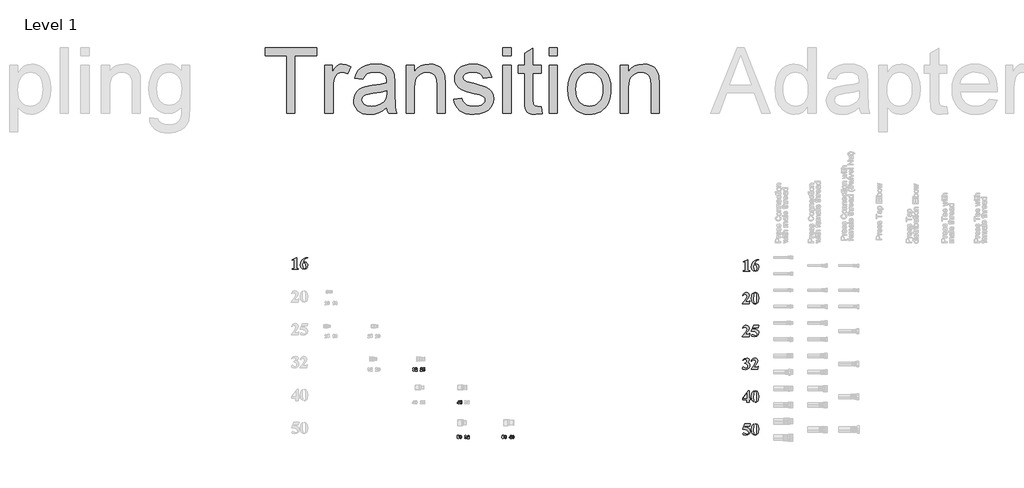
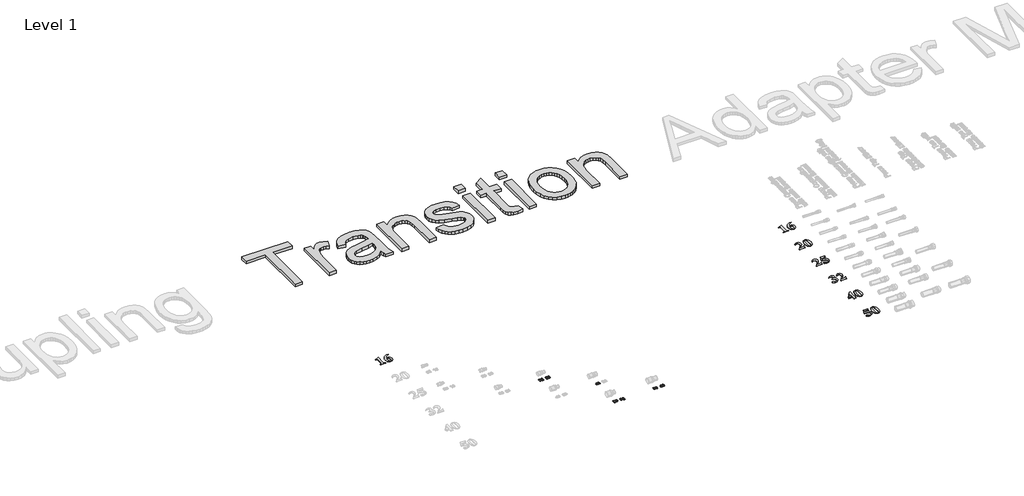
# One storey, part 39 of 57: 15 proxies.
"""IFC4 building model written with IfcOpenShell, lengths in millimetres."""

from ifc_helpers import new_model, si_unit, frame, origin, place, context, project, spatial, polyline, outline, extrude, element, save

model = new_model("IFC4")

# Units and contexts
model_context = context("Model", 3, world=origin())
ifc_project = project(units=[si_unit("LENGTHUNIT", "METRE", prefix="MILLI")], contexts=[model_context])

# Site, building, storey
site = spatial("IfcSite", under=ifc_project)
building = spatial("IfcBuilding", under=site)
storey = spatial("IfcBuildingStorey", under=building, Name="Level 1", Elevation=27.3876384)

# Proxies
placement = place(None, origin())
element("IfcBuildingElementProxy", 1, Name="100mm Arial", ObjectType="100mm Arial", at=placement, inside=storey, context=model_context, shape_type="SweptSolid", body=[
    extrude(outline(polyline([(29128.6894168, 29845.7051784), (29066.8263268, 29845.7051784), (29066.8263268, 29847.4501047), (29102.5973158, 29892.054783), (29108.7045578, 29914.4389156), (29103.4834112, 29927.6758174), (29090.7372699, 29932.951493), (29079.7496872, 29930.0205621), (29071.5430807, 29921.2277695), (29068.73484, 29922.236555), (29073.9934752, 29934.737316), (29081.4264523, 29943.5028442), (29090.6043556, 29948.676278), (29101.0977698, 29950.4007559), (29115.6297341, 29946.8154777), (29125.9220727, 29937.0002673), (29129.6436733, 29925.3174405), (29124.1362497, 29905.1689947), (29112.1330653, 29888.6262755), (29091.2280304, 29866.6442939), (29113.2031959, 29866.6442939), (29123.7409149, 29867.2441123), (29127.7487924, 29869.2889478), (29131.8793601, 29875.3689254), (29134.8784522, 29875.3689254), (29128.6894168, 29845.7051784)])), frame((0.0, 0.0, 27.3876384), z_axis=(0.0, 0.0, 1.0), x_axis=(1.0, 0.0, 0.0)), (0.0, 0.0, 1.0), 2.0),
    extrude(outline(polyline([(29216.8899879, 29897.180504), (29212.4458788, 29868.607336), (29205.3298512, 29855.2750085), (29195.1874672, 29847.0138731), (29182.8366608, 29843.9602521), (29169.0544695, 29847.7227494), (29158.1623124, 29858.5194809), (29152.1913928, 29872.1517175), (29148.8378625, 29895.9808672), (29153.6636743, 29926.5716062), (29158.6530729, 29936.7582951), (29165.7145715, 29944.2526172), (29182.8366608, 29950.4007559), (29199.9723822, 29944.3344106), (29211.6824735, 29928.0166233), (29216.8899879, 29897.180504)]), holes=[polyline([(29194.2059461, 29897.180504), (29193.851508, 29928.5346483), (29189.7345725, 29942.7394389), (29182.7821318, 29945.165977), (29176.9475345, 29943.3392573), (29172.6397477, 29934.0148075), (29171.5219043, 29887.3652936), (29173.2395662, 29858.1923072), (29176.9339023, 29851.0081185), (29183.3001568, 29849.195031), (29189.7345725, 29851.6215691), (29193.851508, 29864.6812518), (29194.2059461, 29897.180504)])]), frame((0.0, 0.0, 27.3876384), z_axis=(0.0, 0.0, 1.0), x_axis=(1.0, 0.0, 0.0)), (0.0, 0.0, 1.0), 2.0),
])
element("IfcBuildingElementProxy", 2, Name="100mm Arial", ObjectType="100mm Arial", at=placement, inside=storey, context=model_context, shape_type="SweptSolid", body=[
    extrude(outline(polyline([(29128.6894168, 29545.7051784), (29066.8263268, 29545.7051784), (29066.8263268, 29547.4501047), (29102.5973158, 29592.054783), (29108.7045578, 29614.4389156), (29103.4834112, 29627.6758174), (29090.7372699, 29632.951493), (29079.7496872, 29630.0205621), (29071.5430807, 29621.2277695), (29068.73484, 29622.236555), (29073.9934752, 29634.737316), (29081.4264523, 29643.5028442), (29090.6043556, 29648.676278), (29101.0977698, 29650.4007559), (29115.6297341, 29646.8154777), (29125.9220727, 29637.0002673), (29129.6436733, 29625.3174405), (29124.1362497, 29605.1689947), (29112.1330653, 29588.6262755), (29091.2280304, 29566.6442939), (29113.2031959, 29566.6442939), (29123.7409149, 29567.2441123), (29127.7487924, 29569.2889478), (29131.8793601, 29575.3689254), (29134.8784522, 29575.3689254), (29128.6894168, 29545.7051784)])), frame((0.0, 0.0, 27.3876384), z_axis=(0.0, 0.0, 1.0), x_axis=(1.0, 0.0, 0.0)), (0.0, 0.0, 1.0), 2.0),
    extrude(outline(polyline([(29168.0320518, 29648.6558296), (29216.8899879, 29648.6558296), (29209.9102828, 29627.7167141), (29165.6327781, 29627.7167141), (29162.4428347, 29618.9920827), (29186.7354805, 29615.2159531), (29204.7027684, 29605.8506065), (29213.843183, 29594.5971952), (29216.8899879, 29580.9036134), (29211.191713, 29562.2001848), (29195.4737441, 29548.5134191), (29173.4849464, 29543.9602521), (29153.6636743, 29548.7587994), (29148.8378625, 29556.4746454), (29151.3598263, 29562.3501394), (29157.2353203, 29564.8993676), (29163.3698268, 29563.5906729), (29174.0029714, 29556.6927611), (29182.1823134, 29551.9214783), (29187.6079436, 29550.9399573), (29198.459204, 29555.5067566), (29202.9305776, 29566.4807071), (29199.5361507, 29578.517972), (29189.3528699, 29588.0741699), (29173.9961553, 29594.3109182), (29155.0814269, 29596.3898343), (29148.8378625, 29596.3080409), (29168.0320518, 29648.6558296)])), frame((0.0, 0.0, 27.3876384), z_axis=(0.0, 0.0, 1.0), x_axis=(1.0, 0.0, 0.0)), (0.0, 0.0, 1.0), 2.0),
])
element("IfcBuildingElementProxy", 3, Name="100mm Arial", ObjectType="100mm Arial", at=placement, inside=storey, context=model_context, shape_type="SweptSolid", body=[
    extrude(outline(polyline([(29086.020516, 29301.5428197), (29086.020516, 29303.287746), (29098.4531159, 29308.0999256), (29104.4376678, 29314.8887794), (29106.9596315, 29324.1450681), (29102.2565099, 29335.2826055), (29090.5464186, 29339.9311982), (29080.485828, 29337.4978439), (29072.0611057, 29330.1977812), (29070.3161794, 29331.2065667), (29084.7254536, 29345.5885764), (29104.3149776, 29350.4007559), (29114.3653441, 29348.9489227), (29122.4867491, 29344.5934231), (29127.8544423, 29338.2953298), (29129.6436733, 29331.0157154), (29125.6357958, 29321.2414017), (29113.0668736, 29312.9666341), (29129.2892352, 29301.6791421), (29133.481148, 29294.1200669), (29134.8784522, 29284.8569621), (29131.8861763, 29269.0946884), (29122.9093484, 29255.8884592), (29108.9090414, 29246.9423039), (29090.8463278, 29243.9602521), (29079.2452944, 29245.2416824), (29071.270436, 29249.0859731), (29066.8263268, 29258.3831585), (29069.4028195, 29265.4582893), (29075.360107, 29268.3892202), (29080.2131832, 29267.2986413), (29089.074137, 29260.5643164), (29103.3607211, 29254.4298099), (29113.2849893, 29258.8875512), (29117.4291893, 29270.1886754), (29115.4286586, 29280.1981452), (29109.4270664, 29289.3964969), (29099.5743673, 29296.8294739), (29086.020516, 29301.5428197)])), frame((0.0, 0.0, 27.3876384), z_axis=(0.0, 0.0, 1.0), x_axis=(1.0, 0.0, 0.0)), (0.0, 0.0, 1.0), 2.0),
    extrude(outline(polyline([(29207.2110999, 29245.7051784), (29145.34801, 29245.7051784), (29145.34801, 29247.4501047), (29181.1189989, 29292.054783), (29187.226241, 29314.4389156), (29182.0050943, 29327.6758174), (29169.2589531, 29332.951493), (29158.2713703, 29330.0205621), (29150.0647638, 29321.2277695), (29147.2565231, 29322.236555), (29152.5151584, 29334.737316), (29159.9481354, 29343.5028442), (29169.1260387, 29348.676278), (29179.6194529, 29350.4007559), (29194.1514172, 29346.8154777), (29204.4437559, 29337.0002673), (29208.1653565, 29325.3174405), (29202.6579329, 29305.1689947), (29190.6547485, 29288.6262755), (29169.7497136, 29266.6442939), (29191.7248791, 29266.6442939), (29202.262598, 29267.2441123), (29206.2704756, 29269.2889478), (29210.4010433, 29275.3689254), (29213.4001354, 29275.3689254), (29207.2110999, 29245.7051784)])), frame((0.0, 0.0, 27.3876384), z_axis=(0.0, 0.0, 1.0), x_axis=(1.0, 0.0, 0.0)), (0.0, 0.0, 1.0), 2.0),
])
element("IfcBuildingElementProxy", 4, Name="100mm Arial", ObjectType="100mm Arial", at=placement, inside=storey, context=model_context, shape_type="SweptSolid", body=[
    extrude(outline(polyline([(29070.3161794, 28984.3649062), (29119.5830827, 29050.6721053), (29129.6436733, 29050.6721053), (29129.6436733, 28984.3649062), (29138.3683048, 28984.3649062), (29138.3683048, 28968.6605696), (29129.6436733, 28968.6605696), (29129.6436733, 28945.9765278), (29106.9596315, 28945.9765278), (29106.9596315, 28968.6605696), (29070.3161794, 28968.6605696), (29070.3161794, 28984.3649062)]), holes=[polyline([(29075.6054872, 28984.3649062), (29106.9596315, 28984.3649062), (29106.9596315, 29026.5430464), (29075.6054872, 28984.3649062)])]), frame((0.0, 0.0, 27.3876384), z_axis=(0.0, 0.0, 1.0), x_axis=(1.0, 0.0, 0.0)), (0.0, 0.0, 1.0), 2.0),
    extrude(outline(polyline([(29216.8899879, 28997.4518534), (29212.4458788, 28968.8786854), (29205.3298512, 28955.5463579), (29195.1874672, 28947.2852225), (29182.8366608, 28944.2316015), (29169.0544695, 28947.9940988), (29158.1623124, 28958.7908303), (29152.1913928, 28972.4230669), (29148.8378625, 28996.2522166), (29153.6636743, 29026.8429556), (29158.6530729, 29037.0296445), (29165.7145715, 29044.5239666), (29182.8366608, 29050.6721053), (29199.9723822, 29044.60576), (29211.6824735, 29028.2879727), (29216.8899879, 28997.4518534)]), holes=[polyline([(29194.2059461, 28997.4518534), (29193.851508, 29028.8059977), (29189.7345725, 29043.0107883), (29182.7821318, 29045.4373264), (29176.9475345, 29043.6106067), (29172.6397477, 29034.2861569), (29171.5219043, 28987.636643), (29173.2395662, 28958.4636566), (29176.9339023, 28951.2794679), (29183.3001568, 28949.4663804), (29189.7345725, 28951.8929185), (29193.851508, 28964.9526012), (29194.2059461, 28997.4518534)])]), frame((0.0, 0.0, 27.3876384), z_axis=(0.0, 0.0, 1.0), x_axis=(1.0, 0.0, 0.0)), (0.0, 0.0, 1.0), 2.0),
])
element("IfcBuildingElementProxy", 5, Name="100mm Arial", ObjectType="100mm Arial", at=placement, inside=storey, context=model_context, shape_type="SweptSolid", body=[
    extrude(outline(polyline([(29115.6862031, 30250.6707559), (29115.6862031, 30166.9142939), (29116.545034, 30155.2178349), (29120.1575767, 30151.0736349), (29128.9640016, 30149.465031), (29131.3905397, 30149.465031), (29131.3905397, 30145.9751784), (29075.5528984, 30145.9751784), (29075.5528984, 30149.465031), (29078.3611391, 30149.465031), (29088.0672916, 30150.9373125), (29091.9797435, 30154.9724546), (29093.0021613, 30166.9142939), (29093.0021613, 30219.2620827), (29092.3478139, 30227.9185529), (29089.9212758, 30230.9040128), (29085.8316048, 30232.1581785), (29076.8615931, 30229.7316404), (29075.5528984, 30233.221493), (29113.205136, 30250.6707559), (29115.6862031, 30250.6707559)])), frame((0.0, 0.0, 27.3876384), z_axis=(0.0, 0.0, 1.0), x_axis=(1.0, 0.0, 0.0)), (0.0, 0.0, 1.0), 2.0),
    extrude(outline(polyline([(29216.891928, 30250.6707559), (29216.891928, 30248.9258296), (29194.8758658, 30239.84676), (29181.7616542, 30226.3508457), (29174.3048207, 30206.6931605), (29179.8667733, 30209.2287565), (29189.8455705, 30210.5374512), (29200.4684909, 30208.4823915), (29209.1624498, 30202.3172125), (29214.9595585, 30192.6076519), (29216.891928, 30179.9194477), (29212.6523024, 30161.6249861), (29200.6286697, 30148.7697869), (29183.9837087, 30144.2302521), (29166.1800077, 30149.410502), (29153.4202341, 30164.5831814), (29148.8398026, 30186.2993344), (29150.9425751, 30202.9272551), (29157.2508926, 30218.2941939), (29167.4273573, 30231.5310957), (29181.1345713, 30241.7689054), (29197.8102048, 30248.3634999), (29216.891928, 30250.6707559)]), holes=[polyline([(29173.2687707, 30201.076679), (29171.5238444, 30185.8903673), (29173.7186345, 30165.8373472), (29179.7304509, 30152.2460073), (29186.1921311, 30149.465031), (29192.9673527, 30153.4865408), (29195.9528125, 30169.8315925), (29194.6304856, 30187.3490167), (29190.6635047, 30198.4592895), (29181.4753772, 30203.557746), (29173.2687707, 30201.076679)])]), frame((0.0, 0.0, 27.3876384), z_axis=(0.0, 0.0, 1.0), x_axis=(1.0, 0.0, 0.0)), (0.0, 0.0, 1.0), 2.0),
])
element("IfcBuildingElementProxy", 6, Name="100mm Arial", ObjectType="100mm Arial", at=placement, inside=storey, context=model_context, shape_type="SweptSolid", body=[
    extrude(outline(polyline([(29089.5103686, 28748.9258296), (29138.3683048, 28748.9258296), (29131.3885996, 28727.9867141), (29087.111095, 28727.9867141), (29083.9211516, 28719.2620827), (29108.2137973, 28715.4859531), (29126.1810852, 28706.1206065), (29135.3214999, 28694.8671952), (29138.3683048, 28681.1736134), (29132.6700299, 28662.4701848), (29116.952061, 28648.7834191), (29094.9632633, 28644.2302521), (29075.1419912, 28649.0287994), (29070.3161794, 28656.7446454), (29072.8381432, 28662.6201394), (29078.7136372, 28665.1693676), (29084.8481437, 28663.8606729), (29095.4812883, 28656.9627611), (29103.6606303, 28652.1914783), (29109.0862605, 28651.2099573), (29119.9375208, 28655.7767566), (29124.4088945, 28666.7507071), (29121.0144675, 28678.787972), (29110.8311867, 28688.3441699), (29095.4744722, 28694.5809182), (29076.5597438, 28696.6598343), (29070.3161794, 28696.5780409), (29089.5103686, 28748.9258296)])), frame((0.0, 0.0, 27.3876384), z_axis=(0.0, 0.0, 1.0), x_axis=(1.0, 0.0, 0.0)), (0.0, 0.0, 1.0), 2.0),
    extrude(outline(polyline([(29216.8899879, 28697.450504), (29212.4458788, 28668.877336), (29205.3298512, 28655.5450085), (29195.1874672, 28647.2838731), (29182.8366608, 28644.2302521), (29169.0544695, 28647.9927494), (29158.1623124, 28658.7894809), (29152.1913928, 28672.4217175), (29148.8378625, 28696.2508672), (29153.6636743, 28726.8416062), (29158.6530729, 28737.0282951), (29165.7145715, 28744.5226172), (29182.8366608, 28750.6707559), (29199.9723822, 28744.6044106), (29211.6824735, 28728.2866233), (29216.8899879, 28697.450504)]), holes=[polyline([(29194.2059461, 28697.450504), (29193.851508, 28728.8046483), (29189.7345725, 28743.0094389), (29182.7821318, 28745.435977), (29176.9475345, 28743.6092573), (29172.6397477, 28734.2848075), (29171.5219043, 28687.6352936), (29173.2395662, 28658.4623072), (29176.9339023, 28651.2781185), (29183.3001568, 28649.465031), (29189.7345725, 28651.8915691), (29193.851508, 28664.9512518), (29194.2059461, 28697.450504)])]), frame((0.0, 0.0, 27.3876384), z_axis=(0.0, 0.0, 1.0), x_axis=(1.0, 0.0, 0.0)), (0.0, 0.0, 1.0), 2.0),
])
element("IfcBuildingElementProxy", 7, Name="100mm Arial", ObjectType="100mm Arial", at=placement, inside=storey, context=model_context, shape_type="SweptSolid", body=[
    extrude(outline(polyline([(24988.8058204, 30267.9322839), (24988.8058204, 30184.1758219), (24989.6646513, 30172.4793628), (24993.277194, 30168.3351629), (25002.0836189, 30166.7265589), (25004.510157, 30166.7265589), (25004.510157, 30163.2367064), (24948.6725157, 30163.2367064), (24948.6725157, 30166.7265589), (24951.4807564, 30166.7265589), (24961.1869089, 30168.1988405), (24965.0993608, 30172.2339825), (24966.1217786, 30184.1758219), (24966.1217786, 30236.5236106), (24965.4674312, 30245.1800809), (24963.0408931, 30248.1655407), (24958.9512221, 30249.4197065), (24949.9812104, 30246.9931684), (24948.6725157, 30250.483021), (24986.3247533, 30267.9322839), (24988.8058204, 30267.9322839)])), frame((0.0, 0.0, 27.3876384), z_axis=(0.0, 0.0, 1.0), x_axis=(1.0, 0.0, 0.0)), (0.0, 0.0, 1.0), 2.0),
    extrude(outline(polyline([(25090.0115453, 30267.9322839), (25090.0115453, 30266.1873576), (25067.9954831, 30257.108288), (25054.8812715, 30243.6123737), (25047.424438, 30223.9546884), (25052.9863906, 30226.4902844), (25062.9651878, 30227.7989792), (25073.5881082, 30225.7439195), (25082.2820671, 30219.5787405), (25088.0791758, 30209.8691799), (25090.0115453, 30197.1809756), (25085.7719197, 30178.886514), (25073.748287, 30166.0313149), (25057.103326, 30161.4917801), (25039.299625, 30166.67203), (25026.5398515, 30181.8447094), (25021.9594199, 30203.5608624), (25024.0621924, 30220.188783), (25030.37051, 30235.5557218), (25040.5469746, 30248.7926236), (25054.2541886, 30259.0304333), (25070.9298221, 30265.6250278), (25090.0115453, 30267.9322839)]), holes=[polyline([(25046.388388, 30218.3382069), (25044.6434617, 30203.1518953), (25046.8382518, 30183.0988752), (25052.8500682, 30169.5075352), (25059.3117484, 30166.7265589), (25066.08697, 30170.7480688), (25069.0724298, 30187.0931205), (25067.7501029, 30204.6105446), (25063.783122, 30215.7208175), (25054.5949945, 30220.819274), (25046.388388, 30218.3382069)])]), frame((0.0, 0.0, 27.3876384), z_axis=(0.0, 0.0, 1.0), x_axis=(1.0, 0.0, 0.0)), (0.0, 0.0, 1.0), 2.0),
])
element("IfcBuildingElementProxy", 8, Name="30mm Arial", ObjectType="30mm Arial", at=placement, inside=storey, context=model_context, shape_type="SweptSolid", body=[
    extrude(outline(polyline([(26137.3037173, 29236.8883595), (26137.3037173, 29231.0583057), (26117.8702049, 29231.0583057), (26119.7300528, 29236.7782868), (26125.8409815, 29243.9481901), (26130.3501637, 29248.8369331), (26131.4736636, 29252.3440748), (26130.5285572, 29255.2932621), (26127.9209746, 29256.3218718), (26125.3095964, 29255.3084445), (26124.1860965, 29251.9493316), (26118.3560427, 29252.4807167), (26121.4836236, 29259.5291605), (26128.0500253, 29261.6660877), (26134.8365722, 29259.2710592), (26137.3037173, 29253.3157504), (26136.6280991, 29249.4594128), (26134.4873763, 29245.6258488), (26130.8625707, 29241.7998761), (26127.5338226, 29238.4825148), (26126.4406875, 29236.8883595), (26137.3037173, 29236.8883595)])), frame((0.0, 0.0, 27.3876384), z_axis=(0.0, 0.0, 1.0), x_axis=(1.0, 0.0, 0.0)), (0.0, 0.0, 1.0), 2.0),
    extrude(outline(polyline([(26141.1904198, 29239.6743357), (26146.5346357, 29240.2892241), (26148.022514, 29237.0933223), (26150.8768111, 29235.9166838), (26154.0005964, 29237.1654388), (26155.2797163, 29240.9268863), (26154.091691, 29244.4568016), (26150.9982706, 29245.63344), (26146.7320073, 29243.204251), (26141.6762576, 29243.9557813), (26145.0771223, 29261.1802499), (26159.6522566, 29261.1802499), (26159.6522566, 29255.3501962), (26149.7912673, 29255.3501962), (26148.6146288, 29249.7858351), (26152.3722806, 29250.9776559), (26158.5667127, 29248.218249), (26161.10977, 29241.0559369), (26158.9918208, 29234.5047177), (26150.9679057, 29230.5724679), (26144.2838402, 29233.0396131), (26141.1904198, 29239.6743357)])), frame((0.0, 0.0, 27.3876384), z_axis=(0.0, 0.0, 1.0), x_axis=(1.0, 0.0, 0.0)), (0.0, 0.0, 1.0), 2.0),
])
element("IfcBuildingElementProxy", 9, Name="30mm Arial", ObjectType="30mm Arial", at=placement, inside=storey, context=model_context, shape_type="SweptSolid", body=[
    extrude(outline(polyline([(26048.104811, 29239.6136059), (26053.9348648, 29240.2892241), (26055.2481451, 29237.0401838), (26057.8367497, 29235.9166838), (26060.592361, 29237.2033949), (26061.7082697, 29240.6687849), (26060.6872512, 29243.9405989), (26058.1935368, 29245.1476022), (26055.878216, 29244.7149029), (26056.3868275, 29249.5201425), (26059.2601026, 29250.4766357), (26060.2507563, 29253.1791085), (26059.5106127, 29255.4678601), (26057.5406923, 29256.3218718), (26055.4644947, 29255.3312182), (26054.4207026, 29252.4351694), (26048.5906489, 29253.3081592), (26050.196191, 29257.9425964), (26053.1947212, 29260.6716385), (26057.5027362, 29261.6660877), (26064.0463642, 29258.9104764), (26066.08081, 29253.8091794), (26061.7158609, 29247.3794197), (26065.9517593, 29244.8781141), (26067.5383234, 29240.1829471), (26064.725778, 29233.3850134), (26057.7228814, 29230.5724679), (26051.1375017, 29233.0737735), (26048.104811, 29239.6136059)])), frame((0.0, 0.0, 27.3876384), z_axis=(0.0, 0.0, 1.0), x_axis=(1.0, 0.0, 0.0)), (0.0, 0.0, 1.0), 2.0),
    extrude(outline(polyline([(26090.8585383, 29236.8883595), (26090.8585383, 29231.0583057), (26071.4250259, 29231.0583057), (26073.2848738, 29236.7782868), (26079.3958025, 29243.9481901), (26083.9049846, 29248.8369331), (26085.0284846, 29252.3440748), (26084.0833782, 29255.2932621), (26081.4757956, 29256.3218718), (26078.8644174, 29255.3084445), (26077.7409174, 29251.9493316), (26071.9108637, 29252.4807167), (26075.0384446, 29259.5291605), (26081.6048463, 29261.6660877), (26088.3913932, 29259.2710592), (26090.8585383, 29253.3157504), (26090.1829201, 29249.4594128), (26088.0421972, 29245.6258488), (26084.4173917, 29241.7998761), (26081.0886436, 29238.4825148), (26079.9955085, 29236.8883595), (26090.8585383, 29236.8883595)])), frame((0.0, 0.0, 27.3876384), z_axis=(0.0, 0.0, 1.0), x_axis=(1.0, 0.0, 0.0)), (0.0, 0.0, 1.0), 2.0),
])
element("IfcBuildingElementProxy", 10, Name="30mm Arial", ObjectType="30mm Arial", at=placement, inside=storey, context=model_context, shape_type="SweptSolid", body=[
    extrude(outline(polyline([(26468.5586367, 28930.5667047), (26468.5586367, 28936.8825962), (26456.8985293, 28936.8825962), (26456.8985293, 28941.7182006), (26469.3329408, 28960.6886489), (26474.3886905, 28960.6886489), (26474.3886905, 28941.7409743), (26478.2753929, 28941.7409743), (26478.2753929, 28936.8825962), (26474.3886905, 28936.8825962), (26474.3886905, 28930.5667047), (26468.5586367, 28930.5667047)]), holes=[polyline([(26468.5586367, 28941.7409743), (26468.5586367, 28951.6854669), (26462.0453736, 28941.7409743), (26468.5586367, 28941.7409743)])]), frame((0.0, 0.0, 27.3876384), z_axis=(0.0, 0.0, 1.0), x_axis=(1.0, 0.0, 0.0)), (0.0, 0.0, 1.0), 2.0),
    extrude(outline(polyline([(26490.907176, 28961.1744867), (26497.7013141, 28958.0165409), (26500.6239322, 28945.6200855), (26497.6861317, 28933.1932653), (26490.907176, 28930.0808669), (26483.8663234, 28933.496914), (26481.1904198, 28945.6808153), (26484.1282203, 28958.0620882), (26490.907176, 28961.1744867)]), holes=[polyline([(26490.907176, 28955.8302708), (26488.9638247, 28955.188813), (26487.6429532, 28952.884879), (26487.0204735, 28945.6200855), (26487.5746323, 28938.6020066), (26488.9752116, 28936.0589493), (26490.907176, 28935.4250828), (26492.8505272, 28936.0665405), (26494.1713988, 28938.3704745), (26494.7938785, 28945.6200855), (26494.2397197, 28952.6343689), (26492.8391404, 28955.188813), (26490.907176, 28955.8302708)])]), frame((0.0, 0.0, 27.3876384), z_axis=(0.0, 0.0, 1.0), x_axis=(1.0, 0.0, 0.0)), (0.0, 0.0, 1.0), 2.0),
])
element("IfcBuildingElementProxy", 11, Name="30mm Arial", ObjectType="30mm Arial", at=placement, inside=storey, context=model_context, shape_type="SweptSolid", body=[
    extrude(outline(polyline([(26525.0647567, 28621.216663), (26530.8948104, 28621.8922812), (26532.2080908, 28618.6432409), (26534.7966953, 28617.519741), (26537.5523067, 28618.806452), (26538.6682154, 28622.271842), (26537.6471969, 28625.543656), (26535.1534825, 28626.7506593), (26532.8381617, 28626.31796), (26533.3467731, 28631.1231996), (26536.2200483, 28632.0796928), (26537.2107019, 28634.7821656), (26536.4705584, 28637.0709172), (26534.5006379, 28637.924929), (26532.4244404, 28636.9342753), (26531.3806482, 28634.0382265), (26525.5505945, 28634.9112163), (26527.1561367, 28639.5456535), (26530.1546669, 28642.2746956), (26534.4626818, 28643.2691449), (26541.0063098, 28640.5135335), (26543.0407557, 28635.4122365), (26538.6758066, 28628.9824768), (26542.911705, 28626.4811712), (26544.4982691, 28621.7860042), (26541.6857236, 28614.9880705), (26534.6828271, 28612.175525), (26528.0974474, 28614.6768306), (26525.0647567, 28621.216663)])), frame((0.0, 0.0, 27.3876384), z_axis=(0.0, 0.0, 1.0), x_axis=(1.0, 0.0, 0.0)), (0.0, 0.0, 1.0), 2.0),
    extrude(outline(polyline([(26567.8184839, 28618.4914166), (26567.8184839, 28612.6613629), (26548.3849716, 28612.6613629), (26550.2448194, 28618.3813439), (26556.3557481, 28625.5512472), (26560.8649303, 28630.4399902), (26561.9884302, 28633.9471319), (26561.0433239, 28636.8963192), (26558.4357413, 28637.924929), (26555.824363, 28636.9115016), (26554.7008631, 28633.5523887), (26548.8708094, 28634.0837738), (26551.9983903, 28641.1322176), (26558.5647919, 28643.2691449), (26565.3513388, 28640.8741163), (26567.8184839, 28634.9188075), (26567.1428657, 28631.0624699), (26565.0021429, 28627.2289059), (26561.3773374, 28623.4029332), (26558.0485892, 28620.0855719), (26556.9554542, 28618.4914166), (26567.8184839, 28618.4914166)])), frame((0.0, 0.0, 27.3876384), z_axis=(0.0, 0.0, 1.0), x_axis=(1.0, 0.0, 0.0)), (0.0, 0.0, 1.0), 2.0),
])
element("IfcBuildingElementProxy", 12, Name="30mm Arial", ObjectType="30mm Arial", at=placement, inside=storey, context=model_context, shape_type="SweptSolid", body=[
    extrude(outline(polyline([(26455.0647567, 28621.2773928), (26460.4089726, 28621.8922812), (26461.8968509, 28618.6963794), (26464.751148, 28617.519741), (26467.8749333, 28618.7684959), (26469.1540532, 28622.5299434), (26467.9660279, 28626.0598587), (26464.8726075, 28627.2364971), (26460.6063442, 28624.8073081), (26455.5505945, 28625.5588385), (26458.9514592, 28642.783307), (26473.5265935, 28642.783307), (26473.5265935, 28636.9532533), (26463.6656042, 28636.9532533), (26462.4889657, 28631.3888922), (26466.2466175, 28632.580713), (26472.4410496, 28629.8213061), (26474.9841069, 28622.658994), (26472.8661577, 28616.1077748), (26464.8422426, 28612.175525), (26458.1581771, 28614.6426702), (26455.0647567, 28621.2773928)])), frame((0.0, 0.0, 27.3876384), z_axis=(0.0, 0.0, 1.0), x_axis=(1.0, 0.0, 0.0)), (0.0, 0.0, 1.0), 2.0),
    extrude(outline(polyline([(26488.1017278, 28643.2691449), (26494.8958659, 28640.1111991), (26497.8184839, 28627.7147437), (26494.8806834, 28615.2879235), (26488.1017278, 28612.175525), (26481.0608751, 28615.5915721), (26478.3849716, 28627.7754735), (26481.3227721, 28640.1567464), (26488.1017278, 28643.2691449)]), holes=[polyline([(26488.1017278, 28637.924929), (26486.1583765, 28637.2834712), (26484.837505, 28634.9795372), (26484.2150253, 28627.7147437), (26484.769184, 28620.6966648), (26486.1697633, 28618.1536075), (26488.1017278, 28617.519741), (26490.045079, 28618.1611987), (26491.3659505, 28620.4651327), (26491.9884302, 28627.7147437), (26491.4342715, 28634.7290271), (26490.0336922, 28637.2834712), (26488.1017278, 28637.924929)])]), frame((0.0, 0.0, 27.3876384), z_axis=(0.0, 0.0, 1.0), x_axis=(1.0, 0.0, 0.0)), (0.0, 0.0, 1.0), 2.0),
])
element("IfcBuildingElementProxy", 13, Name="30mm Arial", ObjectType="30mm Arial", at=placement, inside=storey, context=model_context, shape_type="SweptSolid", body=[
    extrude(outline(polyline([(26945.7531885, 28612.6613629), (26945.7531885, 28618.9772544), (26934.0930811, 28618.9772544), (26934.0930811, 28623.8128588), (26946.5274925, 28642.783307), (26951.5832422, 28642.783307), (26951.5832422, 28623.8356325), (26955.4699447, 28623.8356325), (26955.4699447, 28618.9772544), (26951.5832422, 28618.9772544), (26951.5832422, 28612.6613629), (26945.7531885, 28612.6613629)]), holes=[polyline([(26945.7531885, 28623.8356325), (26945.7531885, 28633.7801251), (26939.2399254, 28623.8356325), (26945.7531885, 28623.8356325)])]), frame((0.0, 0.0, 27.3876384), z_axis=(0.0, 0.0, 1.0), x_axis=(1.0, 0.0, 0.0)), (0.0, 0.0, 1.0), 2.0),
    extrude(outline(polyline([(26968.1017278, 28643.2691449), (26974.8958659, 28640.1111991), (26977.8184839, 28627.7147437), (26974.8806834, 28615.2879235), (26968.1017278, 28612.175525), (26961.0608751, 28615.5915721), (26958.3849716, 28627.7754735), (26961.3227721, 28640.1567464), (26968.1017278, 28643.2691449)]), holes=[polyline([(26968.1017278, 28637.924929), (26966.1583765, 28637.2834712), (26964.837505, 28634.9795372), (26964.2150253, 28627.7147437), (26964.769184, 28620.6966648), (26966.1697633, 28618.1536075), (26968.1017278, 28617.519741), (26970.045079, 28618.1611987), (26971.3659505, 28620.4651327), (26971.9884302, 28627.7147437), (26971.4342715, 28634.7290271), (26970.0336922, 28637.2834712), (26968.1017278, 28637.924929)])]), frame((0.0, 0.0, 27.3876384), z_axis=(0.0, 0.0, 1.0), x_axis=(1.0, 0.0, 0.0)), (0.0, 0.0, 1.0), 2.0),
])
element("IfcBuildingElementProxy", 14, Name="30mm Arial", ObjectType="30mm Arial", at=placement, inside=storey, context=model_context, shape_type="SweptSolid", body=[
    extrude(outline(polyline([(26865.0647567, 28621.2773928), (26870.4089726, 28621.8922812), (26871.8968509, 28618.6963794), (26874.751148, 28617.519741), (26877.8749333, 28618.7684959), (26879.1540532, 28622.5299434), (26877.9660279, 28626.0598587), (26874.8726075, 28627.2364971), (26870.6063442, 28624.8073081), (26865.5505945, 28625.5588385), (26868.9514592, 28642.783307), (26883.5265935, 28642.783307), (26883.5265935, 28636.9532533), (26873.6656042, 28636.9532533), (26872.4889657, 28631.3888922), (26876.2466175, 28632.580713), (26882.4410496, 28629.8213061), (26884.9841069, 28622.658994), (26882.8661577, 28616.1077748), (26874.8422426, 28612.175525), (26868.1581771, 28614.6426702), (26865.0647567, 28621.2773928)])), frame((0.0, 0.0, 27.3876384), z_axis=(0.0, 0.0, 1.0), x_axis=(1.0, 0.0, 0.0)), (0.0, 0.0, 1.0), 2.0),
    extrude(outline(polyline([(26898.1017278, 28643.2691449), (26904.8958659, 28640.1111991), (26907.8184839, 28627.7147437), (26904.8806834, 28615.2879235), (26898.1017278, 28612.175525), (26891.0608751, 28615.5915721), (26888.3849716, 28627.7754735), (26891.3227721, 28640.1567464), (26898.1017278, 28643.2691449)]), holes=[polyline([(26898.1017278, 28637.924929), (26896.1583765, 28637.2834712), (26894.837505, 28634.9795372), (26894.2150253, 28627.7147437), (26894.769184, 28620.6966648), (26896.1697633, 28618.1536075), (26898.1017278, 28617.519741), (26900.045079, 28618.1611987), (26901.3659505, 28620.4651327), (26901.9884302, 28627.7147437), (26901.4342715, 28634.7290271), (26900.0336922, 28637.2834712), (26898.1017278, 28637.924929)])]), frame((0.0, 0.0, 27.3876384), z_axis=(0.0, 0.0, 1.0), x_axis=(1.0, 0.0, 0.0)), (0.0, 0.0, 1.0), 2.0),
])
element("IfcBuildingElementProxy", 15, Name="600mm Arial", ObjectType="600mm Arial", at=placement, inside=storey, context=model_context, shape_type="SweptSolid", body=[
    extrude(outline(polyline([(24897.427256, 31587.8685592), (24897.427256, 32115.2641875), (24699.6538954, 32115.2641875), (24699.6538954, 32190.6064201), (25170.5428492, 32190.6064201), (25170.5428492, 32115.2641875), (24972.7694886, 32115.2641875), (24972.7694886, 31587.8685592), (24897.427256, 31587.8685592)])), frame((0.0, 0.0, 27.3876384), z_axis=(0.0, 0.0, 1.0), x_axis=(1.0, 0.0, 0.0)), (0.0, 0.0, 1.0), 30.0),
    extrude(outline(polyline([(25245.8850818, 31587.8685592), (25245.8850818, 32030.5041758), (25311.8095354, 32030.5041758), (25311.8095354, 31965.0211806), (25336.1633235, 32002.9866025), (25358.6041252, 32025.3538279), (25381.1185033, 32036.2799231), (25405.6930205, 32039.9219549), (25443.2169841, 32034.1094193), (25481.3295588, 32016.6718128), (25456.1664303, 31949.1286785), (25429.6789266, 31960.7169613), (25403.191423, 31964.5797223), (25380.695439, 31960.8641141), (25360.5906879, 31949.7172896), (25344.3486979, 31931.9853775), (25333.4409967, 31908.5145062), (25324.280735, 31866.4288059), (25321.2273145, 31820.5171329), (25321.2273145, 31587.8685592), (25245.8850818, 31587.8685592)])), frame((0.0, 0.0, 27.3876384), z_axis=(0.0, 0.0, 1.0), x_axis=(1.0, 0.0, 0.0)), (0.0, 0.0, 1.0), 30.0),
    extrude(outline(polyline([(25810.9518264, 31644.3752337), (25774.9545732, 31613.5099343), (25737.8904622, 31593.3132127), (25698.9133648, 31582.1663883), (25657.1771524, 31578.4507801), (25623.630913, 31580.6856632), (25594.214149, 31587.3903126), (25568.9268603, 31598.5647282), (25547.7690471, 31614.20891), (25531.062606, 31633.3295767), (25519.1294338, 31654.9334469), (25511.9695304, 31679.0205205), (25509.582896, 31705.5907976), (25513.1881395, 31736.823979), (25524.0038702, 31765.1876809), (25540.6873187, 31789.4678925), (25561.8957157, 31808.4506035), (25586.8197209, 31822.7980013), (25614.6499938, 31833.1722736), (25679.8386834, 31844.503039), (25756.8731731, 31856.4224157), (25810.510368, 31870.4019315), (25810.9518264, 31887.1773505), (25805.7646903, 31920.8017648), (25799.2807701, 31933.2545704), (25790.2032819, 31942.8011081), (25774.5131148, 31952.3292518), (25755.4016452, 31959.1350687), (25706.9147982, 31964.5797223), (25662.0331948, 31960.9560846), (25630.6896488, 31950.0851716), (25609.3157049, 31929.9804206), (25594.3429077, 31898.6552687), (25519.0006751, 31908.0730478), (25532.07888, 31949.2758313), (25551.5950198, 31981.6494468), (25579.3701105, 32006.4079051), (25617.2251678, 32024.7652167), (25663.5231169, 32036.1327703), (25716.6268829, 32039.9219549), (25767.5601451, 32036.5742287), (25807.9351941, 32026.5310502), (25838.3774292, 32011.4294943), (25859.5122498, 31992.9066359), (25873.5285538, 31970.0059817), (25882.6152391, 31941.7710386), (25886.294059, 31875.846585), (25886.294059, 31782.1102526), (25890.1200318, 31651.2178388), (25895.7854145, 31618.8626173), (25905.1296172, 31587.8685592), (25829.7873846, 31587.8685592), (25817.7208551, 31614.0617572), (25810.9518264, 31644.3752337)]), holes=[polyline([(25810.9518264, 31795.0596989), (25760.3312639, 31782.5149228), (25689.4036152, 31771.9567096), (25624.5828077, 31759.7430273), (25607.7154182, 31751.392106), (25595.2258245, 31739.8773996), (25587.5003026, 31726.0818248), (25584.9251286, 31710.8882984), (25590.535329, 31688.4842849), (25607.3659303, 31670.1269733), (25635.0490504, 31657.8765029), (25673.2168074, 31653.7930127), (25713.6838269, 31658.2995672), (25749.4419568, 31671.8192305), (25778.4310581, 31691.7400405), (25798.5909914, 31715.4500351), (25807.5305239, 31739.8773996), (25810.510368, 31773.7225432), (25810.9518264, 31795.0596989)])]), frame((0.0, 0.0, 27.3876384), z_axis=(0.0, 0.0, 1.0), x_axis=(1.0, 0.0, 0.0)), (0.0, 0.0, 1.0), 30.0),
    extrude(outline(polyline([(25989.8896289, 31587.8685592), (25989.8896289, 32030.5041758), (26065.2318615, 32030.5041758), (26065.2318615, 31968.7000006), (26091.4066655, 31999.8596056), (26122.8421819, 32022.1164663), (26159.538411, 32035.4705827), (26201.4953525, 32039.9219549), (26238.6330399, 32036.3351054), (26272.6437304, 32025.5745571), (26301.0074322, 32008.9830791), (26321.2041537, 31987.9034407), (26334.9077581, 31962.3908244), (26343.7921082, 31932.5004123), (26347.7652338, 31859.6597772), (26347.7652338, 31587.8685592), (26272.4230012, 31587.8685592), (26272.4230012, 31849.5062342), (26270.2524974, 31888.4649375), (26263.7409861, 31916.1664517), (26251.729639, 31936.0136853), (26233.0596277, 31951.4095468), (26209.1289039, 31961.2871784), (26181.3354192, 31964.5797223), (26158.4577576, 31962.7311152), (26137.2079739, 31957.1852942), (26117.5860679, 31947.942259), (26099.5920398, 31935.0020098), (26084.5594618, 31916.8930186), (26073.8219061, 31892.1437574), (26067.3793726, 31860.7542262), (26065.2318615, 31822.7244249), (26065.2318615, 31587.8685592), (25989.8896289, 31587.8685592)])), frame((0.0, 0.0, 27.3876384), z_axis=(0.0, 0.0, 1.0), x_axis=(1.0, 0.0, 0.0)), (0.0, 0.0, 1.0), 30.0),
    extrude(outline(polyline([(26423.1074664, 31719.7174663), (26498.449699, 31729.1352453), (26503.0022387, 31711.9551562), (26510.3322875, 31696.9087826), (26520.4398453, 31683.9961245), (26533.3249122, 31673.2171821), (26549.0242763, 31664.719108), (26567.5747259, 31658.6490551), (26613.2288815, 31653.7930127), (26658.3312141, 31658.2443849), (26675.8607912, 31663.8086), (26690.0426421, 31671.5985013), (26708.8046239, 31690.9490942), (26713.4951193, 31701.783219), (26715.0586178, 31713.3898959), (26713.4859223, 31723.5618331), (26708.7678357, 31732.5933361), (26689.8954893, 31747.2350395), (26661.6789403, 31756.7999714), (26612.3459647, 31768.719348), (26543.5888198, 31788.6033699), (26498.8911574, 31805.5811239), (26470.1779677, 31824.1039824), (26449.3742409, 31848.6233174), (26436.7374943, 31877.5756304), (26432.5252455, 31909.397423), (26435.9097598, 31938.5888593), (26446.0633029, 31965.5362154), (26462.0661697, 31989.1726336), (26482.9986552, 32008.4312561), (26503.802382, 32020.5529678), (26530.896891, 32030.724905), (26562.2220429, 32037.6226924), (26595.7176985, 32039.9219549), (26644.7563685, 32036.2247408), (26687.3938917, 32025.1330987), (26721.6804937, 32007.7322803), (26745.6663998, 31985.1075376), (26761.558902, 31955.5850075), (26771.5652922, 31917.4908269), (26696.2230596, 31908.0730478), (26686.7133101, 31931.7830424), (26667.896146, 31949.6437132), (26639.5876265, 31960.84572), (26601.6038105, 31964.5797223), (26558.3408878, 31961.0112669), (26529.4989394, 31950.3059008), (26513.2753434, 31934.854857), (26507.8674781, 31917.0493685), (26510.1115583, 31905.4610856), (26516.8437988, 31895.1236016), (26528.3585052, 31885.8897635), (26544.9499832, 31878.4953354), (26609.8443672, 31862.4556804), (26720.4296949, 31826.9918561), (26749.6395253, 31810.0324961), (26771.7860214, 31786.8191422), (26785.7471432, 31757.278218), (26790.4008504, 31721.336147), (26784.9378028, 31684.1800655), (26768.5486599, 31649.231276), (26741.8588211, 31619.2304993), (26705.4936859, 31596.9184563), (26661.5685757, 31583.0676992), (26612.1988119, 31578.4507801), (26571.649019, 31580.6764662), (26536.2311799, 31587.3535244), (26505.9452947, 31598.4819548), (26480.7913633, 31614.0617572), (26460.2451538, 31634.0193555), (26443.7824345, 31658.2811731), (26431.4032054, 31686.84721), (26423.1074664, 31719.7174663)])), frame((0.0, 0.0, 27.3876384), z_axis=(0.0, 0.0, 1.0), x_axis=(1.0, 0.0, 0.0)), (0.0, 0.0, 1.0), 30.0),
    extrude(outline(polyline([(26875.1608621, 31587.8685592), (26875.1608621, 32030.5041758), (26950.5030947, 32030.5041758), (26950.5030947, 31587.8685592), (26875.1608621, 31587.8685592)])), frame((0.0, 0.0, 27.3876384), z_axis=(0.0, 0.0, 1.0), x_axis=(1.0, 0.0, 0.0)), (0.0, 0.0, 1.0), 30.0),
    extrude(outline(polyline([(26875.1608621, 32115.2641875), (26875.1608621, 32190.6064201), (26950.5030947, 32190.6064201), (26950.5030947, 32115.2641875), (26875.1608621, 32115.2641875)])), frame((0.0, 0.0, 27.3876384), z_axis=(0.0, 0.0, 1.0), x_axis=(1.0, 0.0, 0.0)), (0.0, 0.0, 1.0), 30.0),
    extrude(outline(polyline([(27223.6186879, 31650.702804), (27233.036467, 31585.6612672), (27176.6769453, 31578.4507801), (27140.5141452, 31581.5777771), (27113.548395, 31590.958768), (27094.4921076, 31605.4165304), (27082.0576962, 31623.7738419), (27075.2150911, 31655.3013289), (27072.9342227, 31709.2696176), (27072.9342227, 31955.1619432), (27016.4275482, 31955.1619432), (27016.4275482, 32030.5041758), (27072.9342227, 32030.5041758), (27072.9342227, 32138.0728712), (27148.2764553, 32182.3658634), (27148.2764553, 32030.5041758), (27223.6186879, 32030.5041758), (27223.6186879, 31955.1619432), (27148.2764553, 31955.1619432), (27148.2764553, 31711.4769096), (27152.2495808, 31672.6285709), (27165.1254507, 31658.8697843), (27175.9963636, 31655.0622056), (27190.8036139, 31653.7930127), (27223.6186879, 31650.702804)])), frame((0.0, 0.0, 27.3876384), z_axis=(0.0, 0.0, 1.0), x_axis=(1.0, 0.0, 0.0)), (0.0, 0.0, 1.0), 30.0),
    extrude(outline(polyline([(27298.9609205, 31587.8685592), (27298.9609205, 32030.5041758), (27374.3031531, 32030.5041758), (27374.3031531, 31587.8685592), (27298.9609205, 31587.8685592)])), frame((0.0, 0.0, 27.3876384), z_axis=(0.0, 0.0, 1.0), x_axis=(1.0, 0.0, 0.0)), (0.0, 0.0, 1.0), 30.0),
    extrude(outline(polyline([(27298.9609205, 32115.2641875), (27298.9609205, 32190.6064201), (27374.3031531, 32190.6064201), (27374.3031531, 32115.2641875), (27298.9609205, 32115.2641875)])), frame((0.0, 0.0, 27.3876384), z_axis=(0.0, 0.0, 1.0), x_axis=(1.0, 0.0, 0.0)), (0.0, 0.0, 1.0), 30.0),
    extrude(outline(polyline([(27468.4809439, 31809.1863675), (27472.555237, 31866.5115794), (27484.7781163, 31915.9089343), (27505.1495818, 31957.3784322), (27533.6696334, 31990.9200731), (27562.3828232, 32012.3583964), (27594.0758571, 32027.6714844), (27628.7487351, 32036.8593373), (27666.4014573, 32039.9219549), (27707.9675242, 32036.1925511), (27745.5512686, 32025.00434), (27779.1526903, 32006.3573213), (27808.7717894, 31980.2514952), (27832.946235, 31947.5697785), (27850.2136962, 31909.1950879), (27860.5741729, 31865.1274234), (27864.0276651, 31815.366785), (27862.5009548, 31775.0377213), (27857.920824, 31739.2520002), (27850.2872726, 31708.0096218), (27839.6003006, 31681.310586), (27825.9932653, 31658.2489834), (27809.5995239, 31637.9189046), (27790.4190764, 31620.3203497), (27768.4519228, 31605.4533186), (27744.5533887, 31593.639708), (27719.5787997, 31585.2014147), (27693.5281559, 31580.1384388), (27666.4014573, 31578.4507801), (27624.2283851, 31582.1663883), (27586.2951529, 31593.3132127), (27552.6017606, 31611.8912535), (27523.1482084, 31637.9005105), (27499.2312802, 31670.8995255), (27482.14776, 31710.44684), (27471.8976479, 31756.542454), (27468.4809439, 31809.1863675)]), holes=[polyline([(27543.8231765, 31809.3335203), (27546.0028773, 31772.7890426), (27552.5419798, 31741.1465925), (27563.4404839, 31714.40617), (27578.6983897, 31692.567775), (27597.2580363, 31675.6038165), (27618.0617631, 31663.4867033), (27641.1095701, 31656.2164354), (27666.4014573, 31653.7930127), (27691.5645858, 31656.2302309), (27714.5204223, 31663.5418856), (27735.2689668, 31675.7279767), (27753.8102194, 31692.7885042), (27769.0681251, 31714.8430298), (27779.9666292, 31742.0111152), (27786.5057317, 31774.2927602), (27788.6854325, 31811.6879651), (27786.4919361, 31847.0736145), (27779.9114469, 31877.8883301), (27768.9439649, 31904.1321119), (27753.5894902, 31925.80496), (27734.9792597, 31942.7689185), (27714.2445108, 31954.8860317), (27691.3852433, 31962.1562996), (27666.4014573, 31964.5797223), (27641.1095701, 31962.1654967), (27618.0617631, 31954.9228199), (27597.2580363, 31942.8516919), (27578.6983897, 31925.9521128), (27563.4404839, 31904.1780972), (27552.5419798, 31877.4836599), (27546.0028773, 31845.8688009), (27543.8231765, 31809.3335203)])]), frame((0.0, 0.0, 27.3876384), z_axis=(0.0, 0.0, 1.0), x_axis=(1.0, 0.0, 0.0)), (0.0, 0.0, 1.0), 30.0),
    extrude(outline(polyline([(27948.7876768, 31587.8685592), (27948.7876768, 32030.5041758), (28024.1299094, 32030.5041758), (28024.1299094, 31968.7000006), (28050.3047134, 31999.8596056), (28081.7402299, 32022.1164663), (28118.4364589, 32035.4705827), (28160.3934004, 32039.9219549), (28197.5310878, 32036.3351054), (28231.5417783, 32025.5745571), (28259.9054801, 32008.9830791), (28280.1022017, 31987.9034407), (28293.805806, 31962.3908244), (28302.6901562, 31932.5004123), (28306.6632817, 31859.6597772), (28306.6632817, 31587.8685592), (28231.3210491, 31587.8685592), (28231.3210491, 31849.5062342), (28229.1505453, 31888.4649375), (28222.639034, 31916.1664517), (28210.6276869, 31936.0136853), (28191.9576756, 31951.4095468), (28168.0269518, 31961.2871784), (28140.2334671, 31964.5797223), (28117.3558055, 31962.7311152), (28096.1060218, 31957.1852942), (28076.4841159, 31947.942259), (28058.4900878, 31935.0020098), (28043.4575097, 31916.8930186), (28032.719954, 31892.1437574), (28026.2774206, 31860.7542262), (28024.1299094, 31822.7244249), (28024.1299094, 31587.8685592), (27948.7876768, 31587.8685592)])), frame((0.0, 0.0, 27.3876384), z_axis=(0.0, 0.0, 1.0), x_axis=(1.0, 0.0, 0.0)), (0.0, 0.0, 1.0), 30.0),
])

save(model, "model.ifc")
